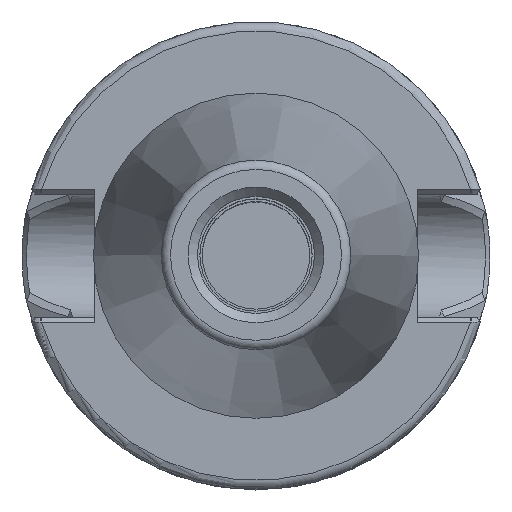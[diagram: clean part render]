
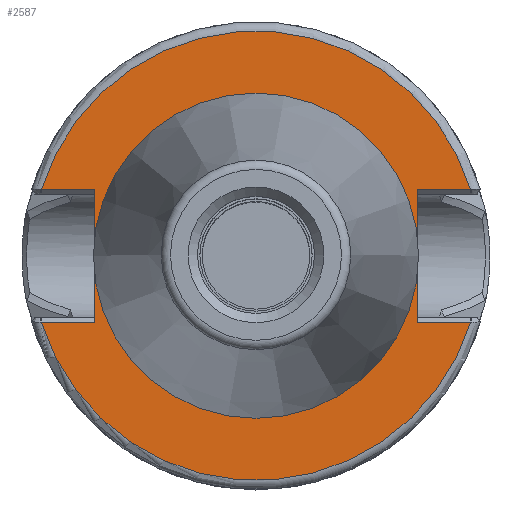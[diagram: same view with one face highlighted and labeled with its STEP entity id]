
A CAD part, top view. The second image highlights one B-rep face of the part: STEP entity #2587.
In plain terms, the highlighted planar face has unit normal (0, 0, 1).
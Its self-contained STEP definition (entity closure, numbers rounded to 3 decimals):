
#214=FACE_BOUND('',#578,.T.);
#276=PLANE('',#2832);
#427=FACE_OUTER_BOUND('',#577,.T.);
#577=EDGE_LOOP('',(#2271,#2272,#2273,#2274,#2275,#2276,#2277,#2278));
#578=EDGE_LOOP('',(#2279,#2280));
#716=LINE('',#3949,#883);
#734=LINE('',#4554,#901);
#741=LINE('',#4760,#908);
#755=LINE('',#5238,#922);
#760=LINE('',#5296,#927);
#761=LINE('',#5298,#928);
#883=VECTOR('',#3228,10.);
#901=VECTOR('',#3256,10.);
#908=VECTOR('',#3311,10.);
#922=VECTOR('',#3335,10.);
#927=VECTOR('',#3354,10.);
#928=VECTOR('',#3357,10.);
#1017=CIRCLE('',#2818,48.);
#1018=CIRCLE('',#2826,48.);
#1020=CIRCLE('',#2833,34.45);
#1021=CIRCLE('',#2834,34.45);
#1173=VERTEX_POINT('',#3946);
#1174=VERTEX_POINT('',#3948);
#1217=VERTEX_POINT('',#4547);
#1220=VERTEX_POINT('',#4552);
#1245=VERTEX_POINT('',#4736);
#1248=VERTEX_POINT('',#4759);
#1267=VERTEX_POINT('',#5231);
#1270=VERTEX_POINT('',#5236);
#1273=VERTEX_POINT('',#5299);
#1274=VERTEX_POINT('',#5300);
#1481=EDGE_CURVE('',#1173,#1174,#716,.T.);
#1540=EDGE_CURVE('',#1220,#1217,#734,.T.);
#1579=EDGE_CURVE('',#1217,#1245,#1017,.T.);
#1583=EDGE_CURVE('',#1245,#1248,#741,.T.);
#1619=EDGE_CURVE('',#1270,#1267,#755,.T.);
#1623=EDGE_CURVE('',#1267,#1173,#1018,.T.);
#1629=EDGE_CURVE('',#1220,#1174,#760,.T.);
#1630=EDGE_CURVE('',#1270,#1248,#761,.T.);
#1631=EDGE_CURVE('',#1273,#1274,#1020,.T.);
#1632=EDGE_CURVE('',#1274,#1273,#1021,.T.);
#2271=ORIENTED_EDGE('',*,*,#1481,.F.);
#2272=ORIENTED_EDGE('',*,*,#1623,.F.);
#2273=ORIENTED_EDGE('',*,*,#1619,.F.);
#2274=ORIENTED_EDGE('',*,*,#1630,.T.);
#2275=ORIENTED_EDGE('',*,*,#1583,.F.);
#2276=ORIENTED_EDGE('',*,*,#1579,.F.);
#2277=ORIENTED_EDGE('',*,*,#1540,.F.);
#2278=ORIENTED_EDGE('',*,*,#1629,.T.);
#2279=ORIENTED_EDGE('',*,*,#1631,.F.);
#2280=ORIENTED_EDGE('',*,*,#1632,.F.);
#2587=ADVANCED_FACE('',(#427,#214),#276,.T.);
#2818=AXIS2_PLACEMENT_3D('',#4737,#3306,#3307);
#2826=AXIS2_PLACEMENT_3D('',#5284,#3338,#3339);
#2832=AXIS2_PLACEMENT_3D('',#5297,#3355,#3356);
#2833=AXIS2_PLACEMENT_3D('',#5301,#3358,#3359);
#2834=AXIS2_PLACEMENT_3D('',#5302,#3360,#3361);
#3228=DIRECTION('',(1.,0.,0.));
#3256=DIRECTION('',(-1.,0.,0.));
#3306=DIRECTION('center_axis',(0.,0.,-1.));
#3307=DIRECTION('ref_axis',(-1.,0.,0.));
#3311=DIRECTION('',(-1.,0.,0.));
#3335=DIRECTION('',(1.,0.,0.));
#3338=DIRECTION('center_axis',(0.,0.,-1.));
#3339=DIRECTION('ref_axis',(-1.,0.,0.));
#3354=DIRECTION('',(0.,-1.,0.));
#3355=DIRECTION('center_axis',(0.,0.,1.));
#3356=DIRECTION('ref_axis',(1.,0.,0.));
#3357=DIRECTION('',(0.,1.,0.));
#3358=DIRECTION('center_axis',(0.,0.,1.));
#3359=DIRECTION('ref_axis',(1.,0.,0.));
#3360=DIRECTION('center_axis',(0.,0.,1.));
#3361=DIRECTION('ref_axis',(1.,0.,0.));
#3946=CARTESIAN_POINT('',(-45.859,-14.175,-106.));
#3948=CARTESIAN_POINT('',(-34.5,-14.175,-106.));
#3949=CARTESIAN_POINT('',(-7.775,-14.175,-106.));
#4547=CARTESIAN_POINT('',(-45.859,14.175,-106.));
#4552=CARTESIAN_POINT('',(-34.5,14.175,-106.));
#4554=CARTESIAN_POINT('',(-7.775,14.175,-106.));
#4736=CARTESIAN_POINT('',(45.859,14.175,-106.));
#4737=CARTESIAN_POINT('Origin',(0.,0.,-106.));
#4759=CARTESIAN_POINT('',(34.5,14.175,-106.));
#4760=CARTESIAN_POINT('',(42.225,14.175,-106.));
#5231=CARTESIAN_POINT('',(45.859,-14.175,-106.));
#5236=CARTESIAN_POINT('',(34.5,-14.175,-106.));
#5238=CARTESIAN_POINT('',(42.225,-14.175,-106.));
#5284=CARTESIAN_POINT('Origin',(0.,0.,-106.));
#5296=CARTESIAN_POINT('',(-34.5,0.,-106.));
#5297=CARTESIAN_POINT('Origin',(34.45,0.,-106.));
#5298=CARTESIAN_POINT('',(34.5,0.,-106.));
#5299=CARTESIAN_POINT('',(34.45,0.,-106.));
#5300=CARTESIAN_POINT('',(-34.45,0.,-106.));
#5301=CARTESIAN_POINT('Origin',(0.,0.,-106.));
#5302=CARTESIAN_POINT('Origin',(0.,0.,-106.));
